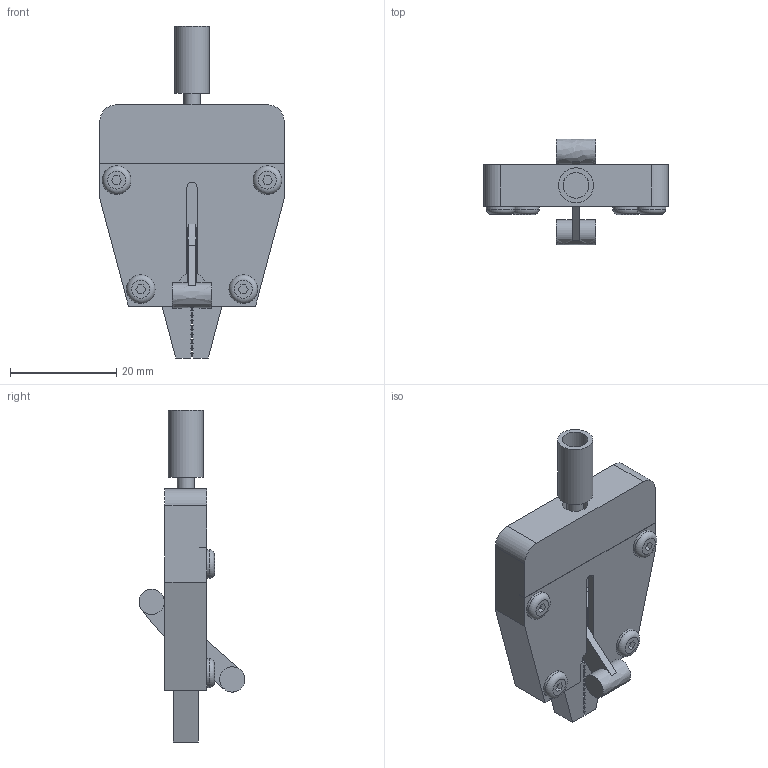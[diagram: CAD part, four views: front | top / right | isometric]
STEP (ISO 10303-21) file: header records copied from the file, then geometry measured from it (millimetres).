
FILE_DESCRIPTION((''),'2;1');
FILE_NAME('F:\CAD files\Itr\3D MARKETING MODELS\GRIPS\G1062\G1062.stp','2017-04-19T14:54:57',('mlampen'),(''),'Autodesk Inventor 2010','Autodesk Inventor 2010','');
FILE_SCHEMA(('AUTOMOTIVE_DESIGN { 1 0 10303 214 1 1 1 1 }'));
Length unit declared in the file: inch
Products named in the file (5): Assembly1; Part2; Part4; Part6; Part8
Assembly tree (4 placements, depth 2):
  Assembly1
    Part2
    Part4
    Part6
    Part8
Bounding box: 34.8 x 19.96 x 62.64 mm (x, y, z)
Volume: 8898.1 mm3; surface area: 7412.6 mm2
Topology: 9 solids, 9 shells, 185 faces, 469 edges, 312 vertices
Faces by surface type: plane 104, bspline 48, cylinder 25, cone 4, torus 4
Full cylindrical faces by diameter (mm): 1.905 x1, 2.845 x4, 3.175 x5, 4.826 x2, 5.41 x4, 6.604 x1
Entity records: 5723 total; most frequent: CARTESIAN_POINT 1317, ORIENTED_EDGE 874, DIRECTION 784, EDGE_CURVE 437, VECTOR 356, LINE 356, VERTEX_POINT 305, EDGE_LOOP 234
